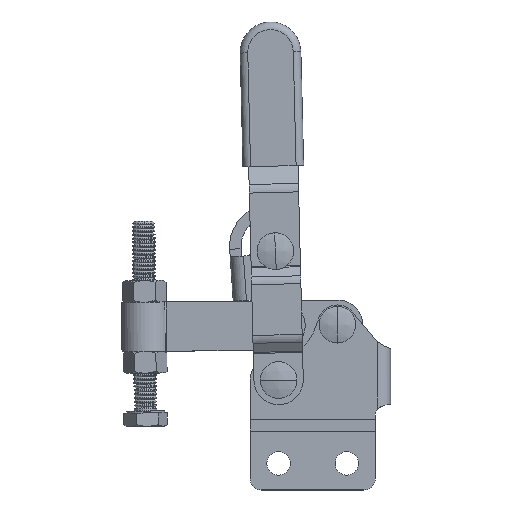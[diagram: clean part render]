
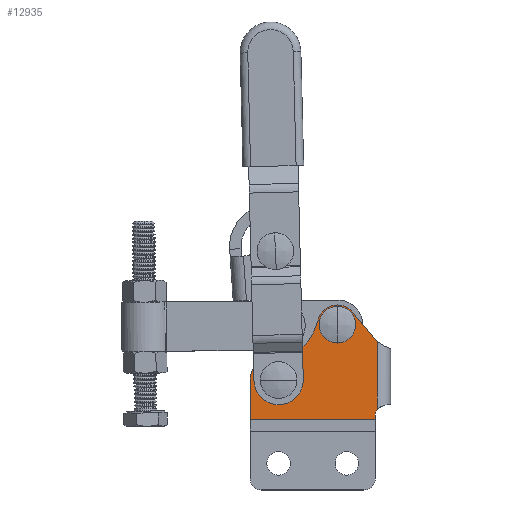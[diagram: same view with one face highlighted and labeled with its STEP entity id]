
A CAD part, top view. The second image highlights one B-rep face of the part: STEP entity #12935.
In plain terms, the highlighted planar face has unit normal (0, 0, 1).
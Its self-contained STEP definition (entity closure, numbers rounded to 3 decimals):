
#87 = DIRECTION ( 'NONE',  ( 0., 0., 1. ) ) ;
#637 = AXIS2_PLACEMENT_3D ( 'NONE', #2121, #12454, #3626 ) ;
#932 = VERTEX_POINT ( 'NONE', #5397 ) ;
#939 = CARTESIAN_POINT ( 'NONE',  ( -29.5, 16.8, 6. ) ) ;
#982 = AXIS2_PLACEMENT_3D ( 'NONE', #16858, #8040, #18348 ) ;
#1200 = VERTEX_POINT ( 'NONE', #18134 ) ;
#1429 = DIRECTION ( 'NONE',  ( 0., 0., -1. ) ) ;
#1501 = VECTOR ( 'NONE', #7984, 1000. ) ;
#1604 = CARTESIAN_POINT ( 'NONE',  ( -29.5, 10.3, 6. ) ) ;
#1783 = CARTESIAN_POINT ( 'NONE',  ( -14., 24.9, 6. ) ) ;
#2074 = EDGE_LOOP ( 'NONE', ( #8217, #13685, #6390, #15597, #14934, #13234, #6858, #12622, #14313, #3771, #17502 ) ) ;
#2121 = CARTESIAN_POINT ( 'NONE',  ( -1., 1., 6. ) ) ;
#2228 = VERTEX_POINT ( 'NONE', #5413 ) ;
#2327 = DIRECTION ( 'NONE',  ( 0.346, 0.938, 0. ) ) ;
#2339 = VERTEX_POINT ( 'NONE', #2734 ) ;
#2384 = CARTESIAN_POINT ( 'NONE',  ( -32., 10.3, 6. ) ) ;
#2426 = DIRECTION ( 'NONE',  ( 0., -1., 0. ) ) ;
#2563 = DIRECTION ( 'NONE',  ( 0.643, -0.766, 0. ) ) ;
#2594 = EDGE_CURVE ( 'NONE', #2228, #5528, #8579, .T. ) ;
#2734 = CARTESIAN_POINT ( 'NONE',  ( -3.5, 2.658, 6. ) ) ;
#2848 = CARTESIAN_POINT ( 'NONE',  ( -18.879, 26.699, 6. ) ) ;
#3051 = EDGE_CURVE ( 'NONE', #8496, #4933, #13171, .T. ) ;
#3112 = DIRECTION ( 'NONE',  ( 1., 0., 0. ) ) ;
#3140 = EDGE_CURVE ( 'NONE', #2339, #9820, #10881, .T. ) ;
#3171 = CIRCLE ( 'NONE', #16515, 2.5 ) ;
#3262 = DIRECTION ( 'NONE',  ( 1., 0., 0. ) ) ;
#3592 = PLANE ( 'NONE',  #982 ) ;
#3626 = DIRECTION ( 'NONE',  ( 1., 0., 0. ) ) ;
#3771 = ORIENTED_EDGE ( 'NONE', *, *, #5075, .T. ) ;
#3864 = VECTOR ( 'NONE', #5951, 1000. ) ;
#3959 = EDGE_CURVE ( 'NONE', #17143, #6183, #9708, .T. ) ;
#4059 = ORIENTED_EDGE ( 'NONE', *, *, #3959, .T. ) ;
#4180 = CARTESIAN_POINT ( 'NONE',  ( -14., 24.9, 6. ) ) ;
#4435 = CARTESIAN_POINT ( 'NONE',  ( -37., 30.5, 6. ) ) ;
#4691 = VECTOR ( 'NONE', #2563, 1000. ) ;
#4693 = CIRCLE ( 'NONE', #14228, 2.5 ) ;
#4933 = VERTEX_POINT ( 'NONE', #939 ) ;
#4961 = FACE_BOUND ( 'NONE', #6196, .T. ) ;
#5000 = EDGE_LOOP ( 'NONE', ( #4059, #11674 ) ) ;
#5075 = EDGE_CURVE ( 'NONE', #15558, #12583, #11258, .T. ) ;
#5299 = CARTESIAN_POINT ( 'NONE',  ( -30.5, 16.8, 6. ) ) ;
#5397 = CARTESIAN_POINT ( 'NONE',  ( -3.5, 20.476, 6. ) ) ;
#5413 = CARTESIAN_POINT ( 'NONE',  ( -20.118, 23.34, 6. ) ) ;
#5528 = VERTEX_POINT ( 'NONE', #2848 ) ;
#5694 = DIRECTION ( 'NONE',  ( -1., 0., 0. ) ) ;
#5951 = DIRECTION ( 'NONE',  ( 0., -1., 0. ) ) ;
#6014 = AXIS2_PLACEMENT_3D ( 'NONE', #7653, #17962, #9147 ) ;
#6183 = VERTEX_POINT ( 'NONE', #13751 ) ;
#6196 = EDGE_LOOP ( 'NONE', ( #6770, #10960 ) ) ;
#6228 = EDGE_CURVE ( 'NONE', #9820, #18481, #18485, .T. ) ;
#6271 = LINE ( 'NONE', #12760, #13191 ) ;
#6317 = CIRCLE ( 'NONE', #12117, 10. ) ;
#6367 = DIRECTION ( 'NONE',  ( -1., 0., 0. ) ) ;
#6390 = ORIENTED_EDGE ( 'NONE', *, *, #11901, .F. ) ;
#6770 = ORIENTED_EDGE ( 'NONE', *, *, #16326, .T. ) ;
#6858 = ORIENTED_EDGE ( 'NONE', *, *, #19046, .F. ) ;
#7475 = EDGE_CURVE ( 'NONE', #1200, #8577, #12385, .T. ) ;
#7653 = CARTESIAN_POINT ( 'NONE',  ( -30.5, 10.3, 6. ) ) ;
#7877 = VECTOR ( 'NONE', #15171, 1000. ) ;
#7984 = DIRECTION ( 'NONE',  ( 0., -1., 0. ) ) ;
#8040 = DIRECTION ( 'NONE',  ( 0., 0., 1. ) ) ;
#8217 = ORIENTED_EDGE ( 'NONE', *, *, #6228, .F. ) ;
#8442 = CARTESIAN_POINT ( 'NONE',  ( -37., 0., 6. ) ) ;
#8496 = VERTEX_POINT ( 'NONE', #5299 ) ;
#8572 = DIRECTION ( 'NONE',  ( 0., 0., -1. ) ) ;
#8577 = VERTEX_POINT ( 'NONE', #9965 ) ;
#8579 = LINE ( 'NONE', #11180, #15949 ) ;
#8590 = EDGE_CURVE ( 'NONE', #14029, #932, #12568, .T. ) ;
#8649 = EDGE_CURVE ( 'NONE', #5528, #14029, #11608, .T. ) ;
#8965 = CARTESIAN_POINT ( 'NONE',  ( -29.5, 26.8, 6. ) ) ;
#9147 = DIRECTION ( 'NONE',  ( -1., 0., 0. ) ) ;
#9209 = CIRCLE ( 'NONE', #6014, 6.5 ) ;
#9225 = AXIS2_PLACEMENT_3D ( 'NONE', #10310, #1429, #11765 ) ;
#9254 = CARTESIAN_POINT ( 'NONE',  ( 0., 0., 6. ) ) ;
#9477 = CARTESIAN_POINT ( 'NONE',  ( -4., 30.5, 6. ) ) ;
#9708 = CIRCLE ( 'NONE', #14404, 2.5 ) ;
#9820 = VERTEX_POINT ( 'NONE', #10184 ) ;
#9965 = CARTESIAN_POINT ( 'NONE',  ( -16.5, 24.9, 6. ) ) ;
#10184 = CARTESIAN_POINT ( 'NONE',  ( -4., 1., 6. ) ) ;
#10310 = CARTESIAN_POINT ( 'NONE',  ( -14., 24.9, 6. ) ) ;
#10356 = AXIS2_PLACEMENT_3D ( 'NONE', #4180, #14521, #5694 ) ;
#10451 = DIRECTION ( 'NONE',  ( 1., 0., 0. ) ) ;
#10881 = CIRCLE ( 'NONE', #637, 3. ) ;
#10960 = ORIENTED_EDGE ( 'NONE', *, *, #7475, .T. ) ;
#11089 = EDGE_CURVE ( 'NONE', #18481, #12583, #14565, .T. ) ;
#11180 = CARTESIAN_POINT ( 'NONE',  ( -18.879, 26.699, 6. ) ) ;
#11258 = LINE ( 'NONE', #4435, #3864 ) ;
#11608 = CIRCLE ( 'NONE', #10356, 5.2 ) ;
#11674 = ORIENTED_EDGE ( 'NONE', *, *, #18395, .T. ) ;
#11765 = DIRECTION ( 'NONE',  ( 1., 0., 0. ) ) ;
#11901 = EDGE_CURVE ( 'NONE', #932, #2339, #6271, .T. ) ;
#11962 = DIRECTION ( 'NONE',  ( 0., 0., -1. ) ) ;
#12115 = DIRECTION ( 'NONE',  ( 0., 0., -1. ) ) ;
#12117 = AXIS2_PLACEMENT_3D ( 'NONE', #8965, #87, #10451 ) ;
#12385 = CIRCLE ( 'NONE', #9225, 2.5 ) ;
#12440 = CARTESIAN_POINT ( 'NONE',  ( -37., 10.3, 6. ) ) ;
#12454 = DIRECTION ( 'NONE',  ( 0., 0., 1. ) ) ;
#12568 = LINE ( 'NONE', #18760, #4691 ) ;
#12583 = VERTEX_POINT ( 'NONE', #8442 ) ;
#12622 = ORIENTED_EDGE ( 'NONE', *, *, #3051, .F. ) ;
#12760 = CARTESIAN_POINT ( 'NONE',  ( -3.5, 30.5, 6. ) ) ;
#12935 = ADVANCED_FACE ( 'NONE', ( #4961, #16752, #13307 ), #3592, .T. ) ;
#13171 = LINE ( 'NONE', #18046, #7877 ) ;
#13191 = VECTOR ( 'NONE', #2426, 1000. ) ;
#13234 = ORIENTED_EDGE ( 'NONE', *, *, #2594, .F. ) ;
#13307 = FACE_OUTER_BOUND ( 'NONE', #2074, .T. ) ;
#13685 = ORIENTED_EDGE ( 'NONE', *, *, #3140, .F. ) ;
#13751 = CARTESIAN_POINT ( 'NONE',  ( -27., 10.3, 6. ) ) ;
#14029 = VERTEX_POINT ( 'NONE', #14891 ) ;
#14133 = VECTOR ( 'NONE', #6367, 1000. ) ;
#14228 = AXIS2_PLACEMENT_3D ( 'NONE', #17381, #8572, #18868 ) ;
#14313 = ORIENTED_EDGE ( 'NONE', *, *, #15930, .F. ) ;
#14404 = AXIS2_PLACEMENT_3D ( 'NONE', #1604, #11962, #3112 ) ;
#14521 = DIRECTION ( 'NONE',  ( 0., 0., -1. ) ) ;
#14565 = LINE ( 'NONE', #9254, #14133 ) ;
#14648 = CARTESIAN_POINT ( 'NONE',  ( -4., 0., 6. ) ) ;
#14891 = CARTESIAN_POINT ( 'NONE',  ( -10.017, 28.242, 6. ) ) ;
#14934 = ORIENTED_EDGE ( 'NONE', *, *, #8649, .F. ) ;
#15171 = DIRECTION ( 'NONE',  ( 1., 0., 0. ) ) ;
#15558 = VERTEX_POINT ( 'NONE', #12440 ) ;
#15597 = ORIENTED_EDGE ( 'NONE', *, *, #8590, .F. ) ;
#15930 = EDGE_CURVE ( 'NONE', #15558, #8496, #9209, .T. ) ;
#15949 = VECTOR ( 'NONE', #2327, 1000. ) ;
#16326 = EDGE_CURVE ( 'NONE', #8577, #1200, #3171, .T. ) ;
#16515 = AXIS2_PLACEMENT_3D ( 'NONE', #1783, #12115, #3262 ) ;
#16752 = FACE_BOUND ( 'NONE', #5000, .T. ) ;
#16858 = CARTESIAN_POINT ( 'NONE',  ( 0., 30.5, 6. ) ) ;
#17143 = VERTEX_POINT ( 'NONE', #2384 ) ;
#17381 = CARTESIAN_POINT ( 'NONE',  ( -29.5, 10.3, 6. ) ) ;
#17502 = ORIENTED_EDGE ( 'NONE', *, *, #11089, .F. ) ;
#17962 = DIRECTION ( 'NONE',  ( 0., 0., -1. ) ) ;
#18046 = CARTESIAN_POINT ( 'NONE',  ( 0., 16.8, 6. ) ) ;
#18134 = CARTESIAN_POINT ( 'NONE',  ( -11.5, 24.9, 6. ) ) ;
#18348 = DIRECTION ( 'NONE',  ( 1., 0., 0. ) ) ;
#18395 = EDGE_CURVE ( 'NONE', #6183, #17143, #4693, .T. ) ;
#18481 = VERTEX_POINT ( 'NONE', #14648 ) ;
#18485 = LINE ( 'NONE', #9477, #1501 ) ;
#18760 = CARTESIAN_POINT ( 'NONE',  ( -2.909, 19.772, 6. ) ) ;
#18868 = DIRECTION ( 'NONE',  ( 1., 0., 0. ) ) ;
#19046 = EDGE_CURVE ( 'NONE', #4933, #2228, #6317, .T. ) ;
